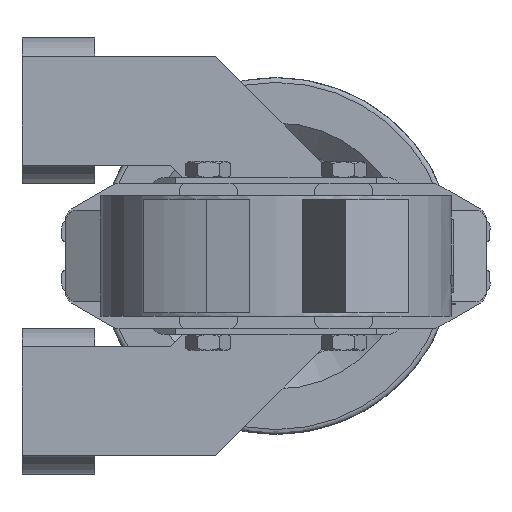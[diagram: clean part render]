
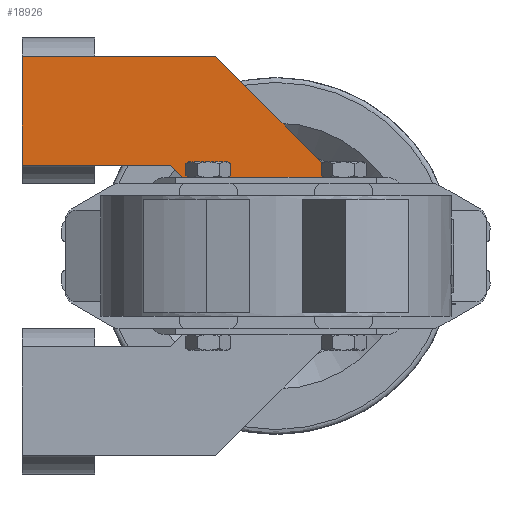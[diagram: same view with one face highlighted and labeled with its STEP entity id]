
A CAD part, front view. The second image highlights one B-rep face of the part: STEP entity #18926.
In plain terms, the highlighted planar face has unit normal (0, -1, 0).
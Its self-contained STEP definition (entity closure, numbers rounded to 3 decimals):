
#1972 = CARTESIAN_POINT ( 'NONE',  ( -35., 332., 30. ) ) ;
#2010 = DIRECTION ( 'NONE',  ( -0.707, 0., -0.707 ) ) ;
#2011 = VECTOR ( 'NONE', #2010, 1000. ) ;
#2012 = CARTESIAN_POINT ( 'NONE',  ( -35., 332., 30. ) ) ;
#2016 = LINE ( 'NONE', #2012, #2011 ) ;
#2191 = DIRECTION ( 'NONE',  ( 1., 0., 0. ) ) ;
#2193 = VECTOR ( 'NONE', #2191, 1000. ) ;
#2194 = CARTESIAN_POINT ( 'NONE',  ( 35., 332., 30. ) ) ;
#2195 = LINE ( 'NONE', #2194, #2193 ) ;
#2198 = FACE_OUTER_BOUND ( 'NONE', #18866, .T. ) ;
#2212 = DIRECTION ( 'NONE',  ( -0.707, 0., 0.707 ) ) ;
#2213 = VECTOR ( 'NONE', #2212, 1000. ) ;
#2214 = CARTESIAN_POINT ( 'NONE',  ( -22.5, 332., 16.35 ) ) ;
#2215 = LINE ( 'NONE', #2214, #2213 ) ;
#2216 = CARTESIAN_POINT ( 'NONE',  ( -43.65, 332., 37.5 ) ) ;
#2217 = DIRECTION ( 'NONE',  ( -1., 0., 0. ) ) ;
#2218 = VECTOR ( 'NONE', #2217, 1000. ) ;
#2219 = CARTESIAN_POINT ( 'NONE',  ( -105., 332., 37.5 ) ) ;
#2220 = LINE ( 'NONE', #2219, #2218 ) ;
#2221 = CARTESIAN_POINT ( 'NONE',  ( -105., 332., 37.5 ) ) ;
#2222 = DIRECTION ( 'NONE',  ( 0., 0., 1. ) ) ;
#2223 = VECTOR ( 'NONE', #2222, 1000. ) ;
#2224 = CARTESIAN_POINT ( 'NONE',  ( -105., 332., 37.5 ) ) ;
#2225 = LINE ( 'NONE', #2224, #2223 ) ;
#2240 = CARTESIAN_POINT ( 'NONE',  ( -105., 332., 82.5 ) ) ;
#2241 = DIRECTION ( 'NONE',  ( 1., 0., 0. ) ) ;
#2242 = VECTOR ( 'NONE', #2241, 1000. ) ;
#2243 = CARTESIAN_POINT ( 'NONE',  ( -25., 332., 82.5 ) ) ;
#2244 = LINE ( 'NONE', #2243, #2242 ) ;
#2245 = CARTESIAN_POINT ( 'NONE',  ( -25., 332., 82.5 ) ) ;
#2246 = DIRECTION ( 'NONE',  ( 0.707, 0., -0.707 ) ) ;
#2247 = VECTOR ( 'NONE', #2246, 1000. ) ;
#2248 = CARTESIAN_POINT ( 'NONE',  ( 22.5, 332., 35. ) ) ;
#2249 = LINE ( 'NONE', #2248, #2247 ) ;
#2250 = CARTESIAN_POINT ( 'NONE',  ( 22.5, 332., 35. ) ) ;
#2251 = DIRECTION ( 'NONE',  ( 0., 0., -1. ) ) ;
#2252 = VECTOR ( 'NONE', #2251, 1000. ) ;
#2253 = CARTESIAN_POINT ( 'NONE',  ( 22.5, 332., -35. ) ) ;
#2254 = LINE ( 'NONE', #2253, #2252 ) ;
#2255 = DIRECTION ( 'NONE',  ( 0., 0., -1. ) ) ;
#2256 = DIRECTION ( 'NONE',  ( 0., -1., 0. ) ) ;
#2257 = CARTESIAN_POINT ( 'NONE',  ( 22.5, 332., 82.5 ) ) ;
#2258 = AXIS2_PLACEMENT_3D ( 'NONE', #2257, #2256, #2255 ) ;
#2259 = PLANE ( 'NONE',  #2258 ) ;
#10214 = CARTESIAN_POINT ( 'NONE',  ( 22.5, 332., 30. ) ) ;
#10284 = CARTESIAN_POINT ( 'NONE',  ( -35.575, 332., 29.425 ) ) ;
#18736 = VERTEX_POINT ( 'NONE', #1972 ) ;
#18793 = EDGE_CURVE ( 'NONE', #18736, #22253, #2016, .T. ) ;
#18866 = EDGE_LOOP ( 'NONE', ( #18927, #18928, #18929, #18932, #18935, #18911, #18914, #18917 ) ) ;
#18893 = EDGE_CURVE ( 'NONE', #18736, #22196, #2195, .T. ) ;
#18911 = ORIENTED_EDGE ( 'NONE', *, *, #18912, .F. ) ;
#18912 = EDGE_CURVE ( 'NONE', #18913, #18937, #2225, .T. ) ;
#18913 = VERTEX_POINT ( 'NONE', #2221 ) ;
#18914 = ORIENTED_EDGE ( 'NONE', *, *, #18915, .F. ) ;
#18915 = EDGE_CURVE ( 'NONE', #18916, #18913, #2220, .T. ) ;
#18916 = VERTEX_POINT ( 'NONE', #2216 ) ;
#18917 = ORIENTED_EDGE ( 'NONE', *, *, #18918, .F. ) ;
#18918 = EDGE_CURVE ( 'NONE', #22253, #18916, #2215, .T. ) ;
#18926 = ADVANCED_FACE ( 'NONE', ( #2198 ), #2259, .T. ) ;
#18927 = ORIENTED_EDGE ( 'NONE', *, *, #18793, .F. ) ;
#18928 = ORIENTED_EDGE ( 'NONE', *, *, #18893, .T. ) ;
#18929 = ORIENTED_EDGE ( 'NONE', *, *, #18930, .F. ) ;
#18930 = EDGE_CURVE ( 'NONE', #18931, #22196, #2254, .T. ) ;
#18931 = VERTEX_POINT ( 'NONE', #2250 ) ;
#18932 = ORIENTED_EDGE ( 'NONE', *, *, #18933, .F. ) ;
#18933 = EDGE_CURVE ( 'NONE', #18934, #18931, #2249, .T. ) ;
#18934 = VERTEX_POINT ( 'NONE', #2245 ) ;
#18935 = ORIENTED_EDGE ( 'NONE', *, *, #18936, .F. ) ;
#18936 = EDGE_CURVE ( 'NONE', #18937, #18934, #2244, .T. ) ;
#18937 = VERTEX_POINT ( 'NONE', #2240 ) ;
#22196 = VERTEX_POINT ( 'NONE', #10214 ) ;
#22253 = VERTEX_POINT ( 'NONE', #10284 ) ;
